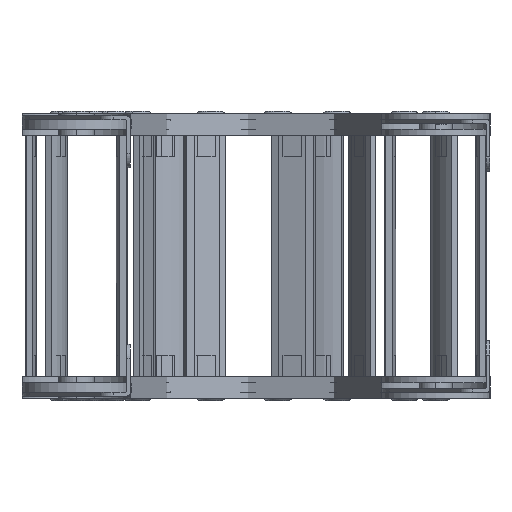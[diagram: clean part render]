
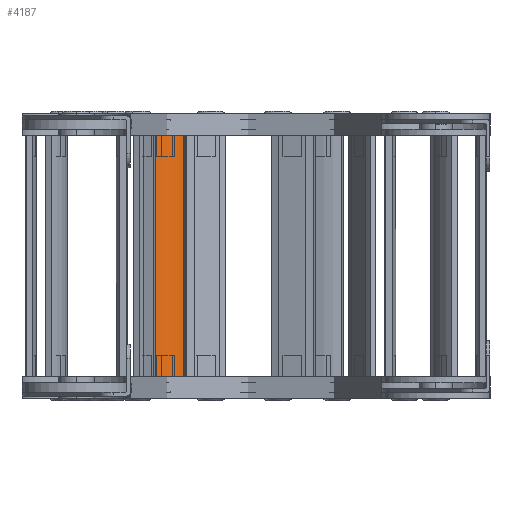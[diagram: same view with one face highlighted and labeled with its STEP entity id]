
A CAD part, left-side view. The second image highlights one B-rep face of the part: STEP entity #4187.
In plain terms, the highlighted cylindrical face has radius 52 mm (diameter 104 mm), a partial arc.
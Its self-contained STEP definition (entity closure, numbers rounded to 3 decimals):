
#4001=CARTESIAN_POINT('',(38.75,85.,0.));
#4002=DIRECTION('',(0.,0.,-1.));
#4003=DIRECTION('',(0.346,-0.938,0.));
#4004=AXIS2_PLACEMENT_3D('',#4001,#4002,#4003);
#4044=DIRECTION('',(0.,0.,-1.));
#4045=VECTOR('',#4044,200.5);
#4046=CARTESIAN_POINT('',(56.75,36.215,0.));
#4047=LINE('',#4046,#4045);
#4051=DIRECTION('',(0.,0.,1.));
#4052=VECTOR('',#4051,200.5);
#4053=CARTESIAN_POINT('',(20.75,36.215,-200.5));
#4054=LINE('',#4053,#4052);
#4079=CARTESIAN_POINT('',(38.75,85.,-200.5));
#4080=DIRECTION('',(0.,0.,1.));
#4081=DIRECTION('',(-0.346,-0.938,0.));
#4082=AXIS2_PLACEMENT_3D('',#4079,#4080,#4081);
#4130=CARTESIAN_POINT('',(56.75,36.215,-200.5));
#4132=VERTEX_POINT('',#4130);
#4133=CARTESIAN_POINT('',(20.75,36.215,-200.5));
#4134=VERTEX_POINT('',#4133);
#4141=CARTESIAN_POINT('',(56.75,36.215,0.));
#4142=VERTEX_POINT('',#4141);
#4145=CARTESIAN_POINT('',(20.75,36.215,0.));
#4146=VERTEX_POINT('',#4145);
#4173=CARTESIAN_POINT('',(38.75,85.,-125.5));
#4174=DIRECTION('',(0.,0.,1.));
#4175=DIRECTION('',(1.,0.,0.));
#4176=AXIS2_PLACEMENT_3D('',#4173,#4174,#4175);
#4177=CYLINDRICAL_SURFACE('',#4176,52.);
#4179=ORIENTED_EDGE('',*,*,#4178,.T.);
#4181=ORIENTED_EDGE('',*,*,#4180,.F.);
#4183=ORIENTED_EDGE('',*,*,#4182,.T.);
#4184=ORIENTED_EDGE('',*,*,#4158,.F.);
#4185=EDGE_LOOP('',(#4179,#4181,#4183,#4184));
#4186=FACE_OUTER_BOUND('',#4185,.F.);
#4187=ADVANCED_FACE('',(#4186),#4177,.T.);
#4005=CIRCLE('',#4004,52.);
#4083=CIRCLE('',#4082,52.);
#4158=EDGE_CURVE('',#4142,#4146,#4005,.T.);
#4178=EDGE_CURVE('',#4142,#4132,#4047,.T.);
#4180=EDGE_CURVE('',#4134,#4132,#4083,.T.);
#4182=EDGE_CURVE('',#4134,#4146,#4054,.T.);
